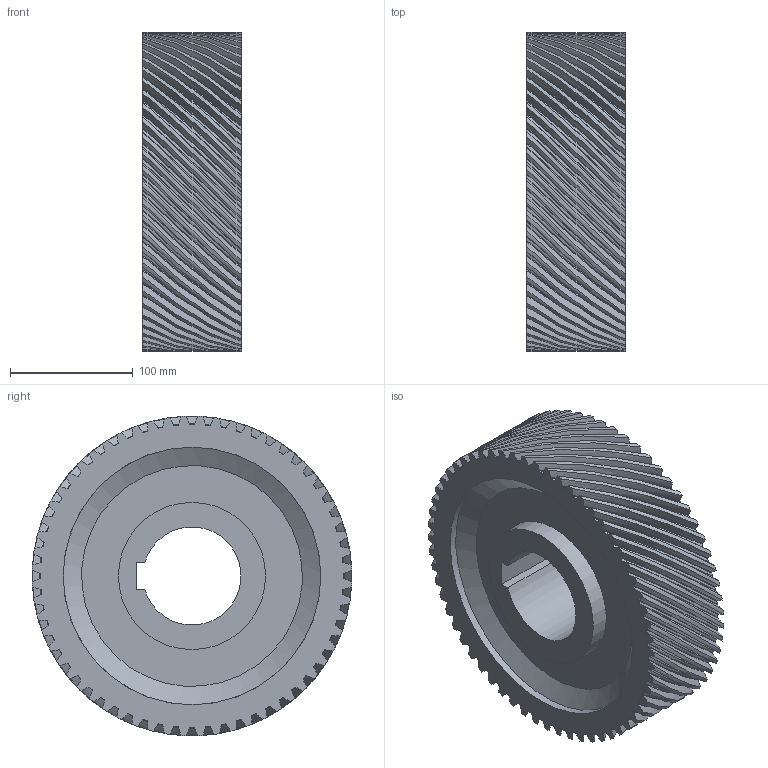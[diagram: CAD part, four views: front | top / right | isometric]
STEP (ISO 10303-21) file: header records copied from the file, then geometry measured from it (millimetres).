
FILE_DESCRIPTION(/* description */ (''),/* implementation_level */ '2;1');
FILE_NAME(/* name */ 'G:\YandexDisk\Работа\Inventor\Универ\ОАП\Лабораторные работы\ЛР6 Создание сборок\Редуктор\stp\Шестерня 2.stp',/* time_stamp */ '2023-11-17T06:38:36+03:00',/* author */ ('34740'),/* organization */ (''),/* preprocessor_version */ 'ST-DEVELOPER v18.1',/* originating_system */ 'Autodesk Inventor 2022',/* authorisation */ '');
FILE_SCHEMA (('AP203_CONFIGURATION_CONTROLLED_3D_DESIGN_OF_MECHANICAL_PARTS_AND_ASSEMBLIES_MIM_LF { 1 0 10303 203 3 1 4 }','AUTOMOTIVE_DESIGN { 1 0 10303 214 3 1 1 }'));
Products named in the file (1): Шестерня 2
Bounding box: 80 x 260.5 x 260.5 mm (x, y, z)
Volume: 3026706.6 mm3; surface area: 266785.5 mm2
Topology: 1 solids, 1 shells, 375 faces, 1107 edges, 738 vertices
Faces by surface type: bspline 240, cylinder 124, plane 9, cone 2
Full cylindrical faces by diameter (mm): 120 x2, 210 x1
Entity records: 147877 total; most frequent: CARTESIAN_POINT 139108, ORIENTED_EDGE 2214, DIRECTION 1751, EDGE_CURVE 1107, AXIS2_PLACEMENT_3D 868, VERTEX_POINT 738, CIRCLE 732, EDGE_LOOP 381
